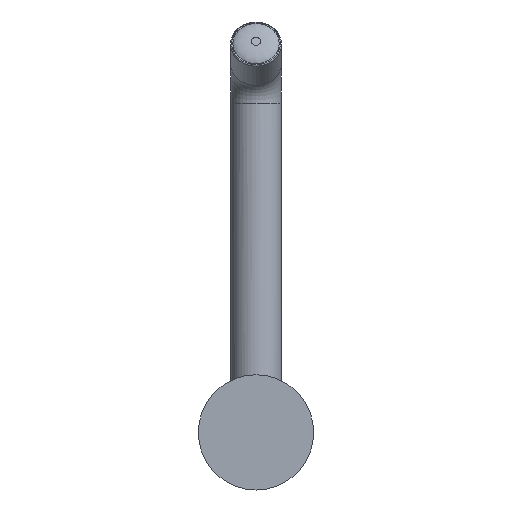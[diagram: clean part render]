
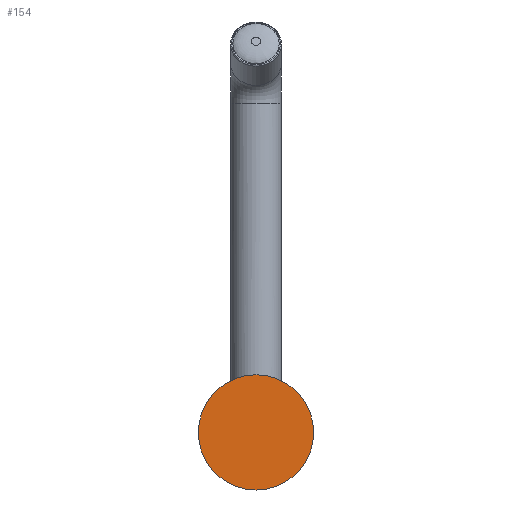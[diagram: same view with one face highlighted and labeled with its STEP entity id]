
A CAD part, front view. The second image highlights one B-rep face of the part: STEP entity #154.
In plain terms, the highlighted planar face has unit normal (0, -1, 0).
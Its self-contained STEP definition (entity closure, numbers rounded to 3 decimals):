
#154=ADVANCED_FACE('',(#426),#428,.F.);
#426=FACE_BOUND('',#427,.T.);
#427=EDGE_LOOP('',(#856));
#428=PLANE('',#429);
#429=AXIS2_PLACEMENT_3D('',#430,#431,#432);
#430=CARTESIAN_POINT('',(0.,0.,0.));
#431=DIRECTION('',(0.,1.,0.));
#432=DIRECTION('',(0.,0.,-1.));
#856=ORIENTED_EDGE('',*,*,#926,.F.);
#926=EDGE_CURVE('',#975,#975,#976,.T.);
#975=VERTEX_POINT('',#1236);
#976=CIRCLE('',#1237,24.9);
#1236=CARTESIAN_POINT('',(0.,0.,-24.9));
#1237=AXIS2_PLACEMENT_3D('',#1238,#1239,#1240);
#1238=CARTESIAN_POINT('',(0.,0.,0.));
#1239=DIRECTION('',(0.,1.,0.));
#1240=DIRECTION('',(0.,0.,-1.));
